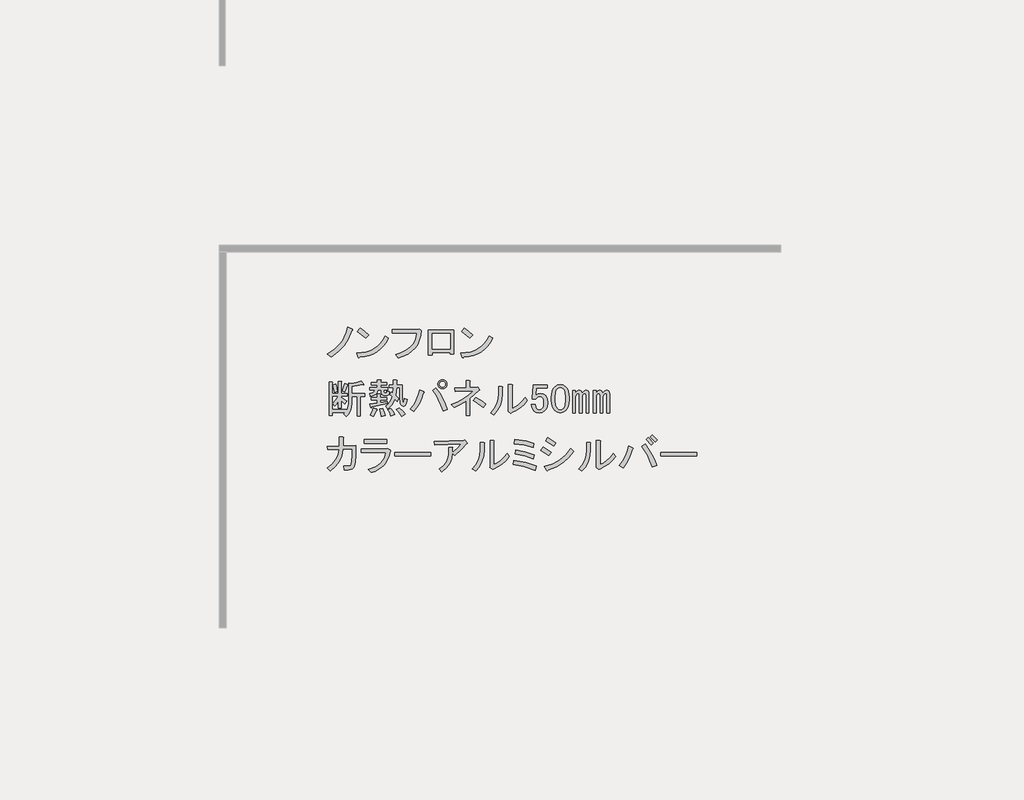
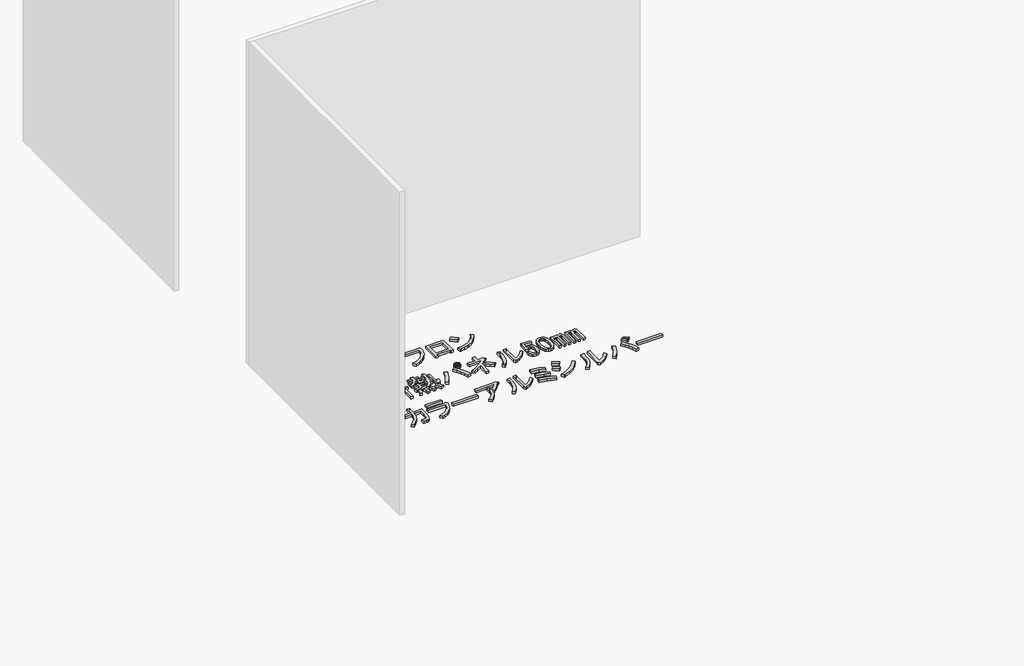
# One storey, part 85 of 117: 1 proxy.
"""IFC4 building model written with IfcOpenShell, lengths in millimetres."""

from ifc_helpers import new_model, si_unit, frame, origin, place, context, project, spatial, polyline, outline, extrude, element, save

model = new_model("IFC4")

# Units and contexts
model_context = context("Model", 3, world=origin())
ifc_project = project(units=[si_unit("LENGTHUNIT", "METRE", prefix="MILLI")], contexts=[model_context])

# Site, building, storey
site = spatial("IfcSite", under=ifc_project)
building = spatial("IfcBuilding", under=site)
storey = spatial("IfcBuildingStorey", under=building, Name="レベル 1", Elevation=500.0)

# Proxy
placement = place(None, origin())
element("IfcBuildingElementProxy", 1, Name="200㎜\u3000MS Pゴシック", ObjectType="200㎜\u3000MS Pゴシック", at=placement, inside=storey, context=model_context, shape_type="SweptSolid", body=[
    extrude(outline(polyline([(943.6706985, 7392.9503118), (918.0952502, 7333.1784775), (889.646156, 7287.2001434), (847.9782907, 7241.7965385), (798.8389462, 7204.439142), (771.2519457, 7226.2788507), (818.9544673, 7256.7394971), (858.6107805, 7295.2463519), (875.9963381, 7319.1694538), (891.3703435, 7347.2593423), (904.7327969, 7379.5160173), (916.0836981, 7415.9394788), (947.1190736, 7402.1459786), (950.2800841, 7397.5481452), (943.6706985, 7392.9503118)])), frame((0.0, 0.0, 500.0), z_axis=(0.0, 0.0, 1.0), x_axis=(1.0, 0.0, 0.0)), (0.0, 0.0, 1.0), 25.0),
    extrude(outline(polyline([(1043.3977052, 7337.7763109), (984.7753292, 7384.9041033), (1004.3161212, 7409.0427287), (1031.6157571, 7389.2145721), (1065.2374138, 7359.6160196), (1043.3977052, 7337.7763109)])), frame((0.0, 0.0, 500.0), z_axis=(0.0, 0.0, 1.0), x_axis=(1.0, 0.0, 0.0)), (0.0, 0.0, 1.0), 25.0),
    extrude(outline(polyline([(1205.4713328, 7337.7763109), (1188.947869, 7308.034076), (1169.8381239, 7282.0275808), (1148.1420975, 7259.7568252), (1123.8597898, 7241.2218093), (1096.9912008, 7226.422533), (1067.5363306, 7215.3589964), (1035.495179, 7208.0311994), (1000.8677461, 7204.439142), (995.1204544, 7196.3929336), (989.3731626, 7202.1402253), (980.1774958, 7232.0261425), (1016.0082679, 7234.7022252), (1048.7857912, 7241.0062859), (1078.5100658, 7250.9383244), (1105.1810916, 7264.4983409), (1128.7988687, 7281.6863354), (1149.363397, 7302.5023077), (1166.8746766, 7326.946258), (1181.3327074, 7355.0181862), (1205.4713328, 7337.7763109)])), frame((0.0, 0.0, 500.0), z_axis=(0.0, 0.0, 1.0), x_axis=(1.0, 0.0, 0.0)), (0.0, 0.0, 1.0), 25.0),
    extrude(outline(polyline([(1256.2314136, 7222.8304757), (1290.014713, 7232.5110702), (1319.5234641, 7244.8857078), (1344.757667, 7259.9543884), (1365.7173217, 7277.717112), (1382.402428, 7298.1738786), (1394.8129862, 7321.3246882), (1402.9489961, 7347.1695409), (1406.8104577, 7375.7084365), (1234.3917049, 7375.7084365), (1234.3917049, 7400.9965202), (1409.1093744, 7400.9965202), (1425.2017914, 7404.4448953), (1437.8458332, 7392.9503118), (1434.325617, 7356.4550091), (1426.0638851, 7323.4080815), (1413.0606375, 7293.8095289), (1395.3158742, 7267.6593514), (1372.8295952, 7244.957549), (1345.6018005, 7225.7041216), (1313.6324901, 7209.8990692), (1276.921664, 7197.5423919), (1256.2314136, 7222.8304757)])), frame((0.0, 0.0, 500.0), z_axis=(0.0, 0.0, 1.0), x_axis=(1.0, 0.0, 0.0)), (0.0, 0.0, 1.0), 25.0),
    extrude(outline(polyline([(1670.955987, 7223.979934), (1644.5184449, 7223.979934), (1644.5184449, 7236.6239759), (1516.9285679, 7236.6239759), (1516.9285679, 7218.2326423), (1490.4910258, 7218.2326423), (1490.4910258, 7397.5481452), (1670.955987, 7397.5481452), (1670.955987, 7223.979934)]), holes=[polyline([(1516.9285679, 7372.2600614), (1516.9285679, 7261.9120596), (1644.5184449, 7261.9120596), (1644.5184449, 7372.2600614), (1516.9285679, 7372.2600614)])]), frame((0.0, 0.0, 500.0), z_axis=(0.0, 0.0, 1.0), x_axis=(1.0, 0.0, 0.0)), (0.0, 0.0, 1.0), 25.0),
    extrude(outline(polyline([(1947.0099049, 7337.7763109), (1930.4864411, 7308.034076), (1911.376696, 7282.0275808), (1889.6806696, 7259.7568252), (1865.3983619, 7241.2218093), (1838.5297729, 7226.422533), (1809.0749026, 7215.3589964), (1777.0337511, 7208.0311994), (1742.4063182, 7204.439142), (1736.6590264, 7196.3929336), (1730.9117347, 7202.1402253), (1721.7160679, 7232.0261425), (1757.5468399, 7234.7022252), (1790.3243633, 7241.0062859), (1820.0486378, 7250.9383244), (1846.7196637, 7264.4983409), (1870.3374407, 7281.6863354), (1890.9019691, 7302.5023077), (1908.4132486, 7326.946258), (1922.8712795, 7355.0181862), (1947.0099049, 7337.7763109)])), frame((0.0, 0.0, 500.0), z_axis=(0.0, 0.0, 1.0), x_axis=(1.0, 0.0, 0.0)), (0.0, 0.0, 1.0), 25.0),
    extrude(outline(polyline([(1784.9362772, 7337.7763109), (1726.3139013, 7384.9041033), (1745.8546933, 7409.0427287), (1773.1543291, 7389.2145721), (1806.7759859, 7359.6160196), (1784.9362772, 7337.7763109)])), frame((0.0, 0.0, 500.0), z_axis=(0.0, 0.0, 1.0), x_axis=(1.0, 0.0, 0.0)), (0.0, 0.0, 1.0), 25.0),
    extrude(outline(polyline([(877.0021141, 6960.7654779), (894.2439894, 7013.6405621), (914.9342397, 7007.8932704), (916.6584273, 7004.7322599), (912.635323, 7002.1459786), (895.3934478, 6953.8687278), (877.0021141, 6960.7654779)])), frame((0.0, 0.0, 500.0), z_axis=(0.0, 0.0, 1.0), x_axis=(1.0, 0.0, 0.0)), (0.0, 0.0, 1.0), 25.0),
    extrude(outline(polyline([(1031.0295333, 7009.0427287), (1029.3053458, 7004.4448953), (1021.8338665, 7006.743812), (944.8201569, 6994.0997701), (944.8201569, 6944.673061), (1036.7768251, 6944.673061), (1036.7768251, 6922.8333523), (1005.7414495, 6922.8333523), (1005.7414495, 6782.5994334), (982.7522825, 6782.5994334), (982.7522825, 6922.8333523), (944.8201569, 6922.8333523), (944.8201569, 6873.4066432), (942.2338756, 6845.6041193), (934.4750317, 6820.8189236), (921.5436253, 6799.051056), (903.4396562, 6780.3005167), (886.1977809, 6799.8413086), (896.5429061, 6809.0369755), (806.8851546, 6809.0369755), (806.8851546, 6787.1972668), (783.8959876, 6787.1972668), (783.8959876, 7026.284604), (805.7356963, 7026.284604), (810.6208943, 7023.9856873), (806.8851546, 7019.3878539), (806.8851546, 6943.5236026), (849.4151137, 6943.5236026), (849.4151137, 7030.8824374), (867.8064473, 7030.8824374), (872.6916453, 7028.5835207), (868.9559057, 7023.9856873), (868.9559057, 6943.5236026), (912.635323, 6943.5236026), (912.635323, 6925.132269), (868.9559057, 6925.132269), (868.9559057, 6915.9366022), (909.186948, 6889.4990601), (895.3934478, 6867.6593514), (868.9559057, 6894.0968935), (868.9559057, 6841.2218093), (849.4151137, 6841.2218093), (849.4151137, 6889.4990601), (836.1963426, 6869.6709035), (821.8281132, 6853.8658512), (809.1840713, 6872.2571848), (831.02378, 6896.3958102), (848.2656553, 6925.132269), (806.8851546, 6925.132269), (806.8851546, 6830.8766841), (904.5891146, 6830.8766841), (904.5891146, 6817.0831839), (917.520521, 6841.2218093), (921.8309898, 6874.5561015), (921.8309898, 7019.3878539), (943.6706985, 7013.6405621), (979.8786366, 7021.1120414), (1010.339283, 7034.3308125), (1031.0295333, 7009.0427287)])), frame((0.0, 0.0, 500.0), z_axis=(0.0, 0.0, 1.0), x_axis=(1.0, 0.0, 0.0)), (0.0, 0.0, 1.0), 25.0),
    extrude(outline(polyline([(822.9775716, 6952.7192695), (810.3335297, 7003.2954369), (829.8743217, 7010.1921871), (837.6331656, 6986.0535617), (842.5183636, 6959.6160196), (822.9775716, 6952.7192695)])), frame((0.0, 0.0, 500.0), z_axis=(0.0, 0.0, 1.0), x_axis=(1.0, 0.0, 0.0)), (0.0, 0.0, 1.0), 25.0),
    extrude(outline(polyline([(1121.8367431, 6832.0261425), (1125.2851182, 6827.1409445), (1119.5378264, 6823.979934), (1109.7674304, 6798.4044857), (1098.8475761, 6779.1510583), (1075.858409, 6790.6456418), (1088.5024509, 6814.209538), (1098.8475761, 6841.2218093), (1121.8367431, 6832.0261425)])), frame((0.0, 0.0, 500.0), z_axis=(0.0, 0.0, 1.0), x_axis=(1.0, 0.0, 0.0)), (0.0, 0.0, 1.0), 25.0),
    extrude(outline(polyline([(1166.6656188, 6836.6239759), (1176.7233794, 6809.32434), (1181.6085774, 6787.1972668), (1152.8721186, 6781.449975), (1150.2858373, 6803.0023191), (1142.5269934, 6833.1756008), (1166.6656188, 6836.6239759)])), frame((0.0, 0.0, 500.0), z_axis=(0.0, 0.0, 1.0), x_axis=(1.0, 0.0, 0.0)), (0.0, 0.0, 1.0), 25.0),
    extrude(outline(polyline([(1281.611454, 6842.3712677), (1306.3248086, 6821.1062881), (1325.2908714, 6796.3929336), (1298.8533293, 6781.449975), (1279.5999019, 6811.0485276), (1260.9212037, 6830.8766841), (1281.611454, 6842.3712677)])), frame((0.0, 0.0, 500.0), z_axis=(0.0, 0.0, 1.0), x_axis=(1.0, 0.0, 0.0)), (0.0, 0.0, 1.0), 25.0),
    extrude(outline(polyline([(1222.9890781, 6783.7488917), (1214.655505, 6808.4622463), (1201.1493694, 6829.7272258), (1221.8396197, 6837.7734343), (1238.7941304, 6816.2210902), (1250.5760785, 6792.9445585), (1222.9890781, 6783.7488917)])), frame((0.0, 0.0, 500.0), z_axis=(0.0, 0.0, 1.0), x_axis=(1.0, 0.0, 0.0)), (0.0, 0.0, 1.0), 25.0),
    extrude(outline(polyline([(1083.9046175, 6846.9691011), (1081.8930654, 6842.0839031), (1078.1573257, 6843.520726), (1072.410034, 6867.6593514), (1127.5840349, 6875.7055599), (1127.5840349, 6898.6947269), (1083.9046175, 6898.6947269), (1083.9046175, 6917.0860605), (1127.5840349, 6917.0860605), (1127.5840349, 6940.0752276), (1145.9753685, 6940.0752276), (1150.8605665, 6937.7763109), (1147.1248268, 6933.1784775), (1147.1248268, 6917.0860605), (1191.9537026, 6917.0860605), (1191.9537026, 6898.6947269), (1147.1248268, 6898.6947269), (1147.1248268, 6879.1539349), (1197.7009943, 6888.3496017), (1197.7009943, 6872.2571848), (1083.9046175, 6846.9691011)])), frame((0.0, 0.0, 500.0), z_axis=(0.0, 0.0, 1.0), x_axis=(1.0, 0.0, 0.0)), (0.0, 0.0, 1.0), 25.0),
    extrude(outline(polyline([(1154.021577, 6968.8116864), (1128.7334932, 6968.8116864), (1124.1356598, 6951.3542877), (1113.7905346, 6938.0636755), (1097.6981177, 6928.9398498), (1075.858409, 6923.9828107), (1071.2605756, 6943.5236026), (1096.5486594, 6952.1445403), (1104.0201386, 6959.4723373), (1108.0432429, 6968.8116864), (1072.410034, 6968.8116864), (1072.410034, 6987.20302), (1126.4345765, 6987.20302), (1126.4345765, 7004.4448953), (1082.7551591, 7004.4448953), (1082.7551591, 7022.8362289), (1126.4345765, 7022.8362289), (1126.4345765, 7041.2275626), (1148.2742852, 7041.2275626), (1153.1594832, 7038.9286459), (1149.4237436, 7034.3308125), (1149.4237436, 7022.8362289), (1191.9537026, 7022.8362289), (1191.9537026, 7004.4448953), (1149.4237436, 7004.4448953), (1149.4237436, 6987.20302), (1202.2988277, 6987.20302), (1202.2988277, 6968.8116864), (1173.5623689, 6968.8116864), (1173.5623689, 6956.1676445), (1174.9991919, 6950.9950819), (1179.3096607, 6949.2708944), (1189.6547859, 6949.2708944), (1193.3905255, 6952.4319049), (1193.1031609, 6961.9149363), (1212.6439529, 6959.6160196), (1209.770307, 6938.0636755), (1204.4540622, 6932.6755894), (1196.551536, 6930.8795608), (1172.4129106, 6930.8795608), (1158.6194104, 6935.7647588), (1154.021577, 6950.4203528), (1154.021577, 6968.8116864)])), frame((0.0, 0.0, 500.0), z_axis=(0.0, 0.0, 1.0), x_axis=(1.0, 0.0, 0.0)), (0.0, 0.0, 1.0), 25.0),
    extrude(outline(polyline([(1285.0598291, 6986.0535617), (1263.2201204, 6986.0535617), (1258.622287, 6928.5806441), (1278.163079, 6910.1893104), (1267.8179538, 6888.3496017), (1251.7255369, 6904.4420187), (1232.4721095, 6866.7972576), (1202.2988277, 6834.3250592), (1185.0569525, 6855.0153095), (1200.1435933, 6866.9409399), (1213.2186821, 6882.0275808), (1224.2822187, 6900.2752321), (1233.3342033, 6921.683894), (1216.092328, 6936.6268525), (1224.1385364, 6953.8687278), (1237.9320367, 6943.5236026), (1240.2309534, 6986.0535617), (1212.6439529, 6986.0535617), (1212.6439529, 7004.4448953), (1240.2309534, 7004.4448953), (1240.2309534, 7038.9286459), (1262.0706621, 7038.9286459), (1266.95586, 7036.6297292), (1263.2201204, 7032.0318957), (1263.2201204, 7004.4448953), (1304.6006211, 7004.4448953), (1304.6006211, 6907.8903937), (1308.0489961, 6883.7517683), (1311.2818477, 6881.7402162), (1314.0836525, 6884.9012267), (1318.3941213, 6906.7409354), (1337.9349133, 6899.8441853), (1333.408921, 6873.0474374), (1325.578236, 6857.0268616), (1314.4428582, 6851.7824579), (1300.0027877, 6857.3142262), (1293.4652433, 6864.6420232), (1288.7955687, 6876.280289), (1285.0598291, 6912.4882271), (1285.0598291, 6986.0535617)])), frame((0.0, 0.0, 500.0), z_axis=(0.0, 0.0, 1.0), x_axis=(1.0, 0.0, 0.0)), (0.0, 0.0, 1.0), 25.0),
    extrude(outline(polyline([(1543.6879583, 6983.754645), (1570.3410238, 6947.0438188), (1592.8273029, 6909.3272167), (1611.1467953, 6870.6048384), (1625.2995013, 6830.8766841), (1594.2641258, 6820.531559), (1578.8182792, 6863.6362472), (1561.2171982, 6902.143102), (1541.4608827, 6936.0521234), (1519.5493329, 6965.3633113), (1543.6879583, 6983.754645)])), frame((0.0, 0.0, 500.0), z_axis=(0.0, 0.0, 1.0), x_axis=(1.0, 0.0, 0.0)), (0.0, 0.0, 1.0), 25.0),
    extrude(outline(polyline([(1456.3291235, 6957.3171029), (1460.3522278, 6951.8571757), (1454.0302068, 6946.9719777), (1442.1045764, 6911.5542922), (1427.0179356, 6877.717112), (1408.7702842, 6845.460437), (1387.3616224, 6814.7842672), (1360.9240803, 6832.0261425), (1384.1287708, 6863.4925649), (1403.1666748, 6896.9705394), (1418.0377922, 6932.460066), (1428.7421231, 6969.9611447), (1456.3291235, 6957.3171029)])), frame((0.0, 0.0, 500.0), z_axis=(0.0, 0.0, 1.0), x_axis=(1.0, 0.0, 0.0)), (0.0, 0.0, 1.0), 25.0),
    extrude(outline(polyline([(1589.6662924, 6978.0073532), (1577.0222505, 6980.3062699), (1566.6771253, 6987.20302), (1559.7803752, 6997.5481452), (1557.4814585, 7010.1921871), (1559.7803752, 7022.8362289), (1566.6771253, 7033.1813541), (1577.0222505, 7040.0781042), (1589.6662924, 7042.3770209), (1602.3103343, 7040.0781042), (1612.6554594, 7033.1813541), (1619.5522095, 7022.8362289), (1621.8511262, 7010.1921871), (1619.5522095, 6997.5481452), (1612.6554594, 6987.20302), (1602.3103343, 6980.3062699), (1589.6662924, 6978.0073532)]), holes=[polyline([(1589.6662924, 6989.5019367), (1597.9998654, 6990.9387597), (1604.609251, 6995.2492285), (1608.9197198, 7001.858614), (1610.3565427, 7010.1921871), (1608.9197198, 7018.5257601), (1604.609251, 7025.1351456), (1597.9998654, 7029.4456145), (1589.6662924, 7030.8824374), (1581.3327193, 7029.4456145), (1574.7233338, 7025.1351456), (1570.412865, 7018.5257601), (1568.976042, 7010.1921871), (1570.412865, 7001.858614), (1574.7233338, 6995.2492285), (1581.3327193, 6990.9387597), (1589.6662924, 6989.5019367)])]), frame((0.0, 0.0, 500.0), z_axis=(0.0, 0.0, 1.0), x_axis=(1.0, 0.0, 0.0)), (0.0, 0.0, 1.0), 25.0),
    extrude(outline(polyline([(1879.3297971, 6844.6701844), (1842.2597652, 6873.9813723), (1809.2128376, 6895.2463519), (1826.4547129, 6917.0860605), (1865.2489323, 6893.8095289), (1898.8705891, 6867.6593514), (1879.3297971, 6844.6701844)])), frame((0.0, 0.0, 500.0), z_axis=(0.0, 0.0, 1.0), x_axis=(1.0, 0.0, 0.0)), (0.0, 0.0, 1.0), 25.0),
    extrude(outline(polyline([(1833.351463, 6988.3524784), (1840.2482131, 6990.6513951), (1852.892255, 6973.4095198), (1854.0417134, 6967.3748634), (1848.2944216, 6965.3633113), (1785.0742122, 6909.0398521), (1785.0742122, 6788.3467251), (1758.6366701, 6788.3467251), (1758.6366701, 6890.6485184), (1718.4056278, 6866.5098931), (1673.5767521, 6844.6701844), (1654.0359601, 6865.3604347), (1699.5832473, 6884.8293855), (1740.8200657, 6907.6030291), (1777.7464152, 6933.6813655), (1810.362296, 6963.0643946), (1680.4735022, 6957.3171029), (1677.0251271, 6982.6051866), (1758.6366701, 6984.9041033), (1758.6366701, 7036.6297292), (1781.6258372, 7036.6297292), (1787.6604935, 7033.1813541), (1785.0742122, 7027.4340623), (1785.0742122, 6986.0535617), (1833.351463, 6988.3524784)])), frame((0.0, 0.0, 500.0), z_axis=(0.0, 0.0, 1.0), x_axis=(1.0, 0.0, 0.0)), (0.0, 0.0, 1.0), 25.0),
    extrude(outline(polyline([(1932.296838, 6806.7380587), (1957.4412394, 6835.9774056), (1975.4015262, 6868.5214452), (1986.1776982, 6904.3701775), (1989.7697556, 6943.5236026), (1989.7697556, 6995.2492285), (2013.908381, 6995.2492285), (2019.6556727, 6991.8008534), (2016.2072977, 6986.0535617), (2016.2072977, 6944.673061), (2012.3997169, 6898.9102504), (2000.9769745, 6858.17632), (1981.9390705, 6822.4712699), (1955.286005, 6791.7951002), (1932.296838, 6806.7380587)])), frame((0.0, 0.0, 500.0), z_axis=(0.0, 0.0, 1.0), x_axis=(1.0, 0.0, 0.0)), (0.0, 0.0, 1.0), 25.0),
    extrude(outline(polyline([(2086.3242571, 6837.7734343), (2111.1094529, 6849.9864292), (2134.8888725, 6867.0846222), (2157.6625161, 6889.0680132), (2179.4303837, 6915.9366022), (2195.5228006, 6894.0968935), (2172.246269, 6866.2943696), (2146.0960914, 6842.6586322), (2117.0722681, 6823.1896814), (2085.1747988, 6807.8875171), (2075.979132, 6803.2896837), (2057.5877983, 6817.0831839), (2059.886715, 6822.8304757), (2059.886715, 7007.8932704), (2084.0253404, 7007.8932704), (2089.7726322, 7004.4448953), (2086.3242571, 6998.6976035), (2086.3242571, 6837.7734343)])), frame((0.0, 0.0, 500.0), z_axis=(0.0, 0.0, 1.0), x_axis=(1.0, 0.0, 0.0)), (0.0, 0.0, 1.0), 25.0),
    extrude(outline(polyline([(2236.9033013, 7004.4448953), (2335.7567195, 7004.4448953), (2335.7567195, 6982.6051866), (2258.7430099, 6982.6051866), (2258.7430099, 6979.1568116), (2255.2946349, 6936.6268525), (2254.1451765, 6929.7301024), (2269.6628643, 6940.0752276), (2286.3300104, 6943.5236026), (2307.3076253, 6939.787863), (2324.262136, 6928.5806441), (2336.3314487, 6908.7524875), (2340.3545529, 6881.4528516), (2335.1819904, 6846.9691011), (2328.7162871, 6833.1756008), (2319.6643026, 6821.6810173), (2301.5603336, 6809.6117046), (2279.4332603, 6805.5886004), (2258.4556454, 6809.32434), (2241.5011347, 6820.531559), (2229.431822, 6839.2102572), (2223.109801, 6865.3604347), (2249.5473431, 6865.3604347), (2253.5704474, 6846.6817365), (2261.0419266, 6834.3250592), (2268.8007705, 6829.1524966), (2278.2838019, 6827.4283091), (2290.6404792, 6829.4398612), (2300.1235106, 6835.4745175), (2309.606542, 6852.4290282), (2312.7675525, 6878.0044766), (2310.1812712, 6902.143102), (2302.4224273, 6917.0860605), (2294.950948, 6922.2586231), (2286.3300104, 6923.9828107), (2273.3986039, 6921.3965294), (2262.191385, 6913.6376855), (2252.9957182, 6903.2925603), (2230.0065511, 6903.2925603), (2231.1560095, 6911.3387688), (2236.9033013, 6999.8470619), (2236.9033013, 7004.4448953)])), frame((0.0, 0.0, 500.0), z_axis=(0.0, 0.0, 1.0), x_axis=(1.0, 0.0, 0.0)), (0.0, 0.0, 1.0), 25.0),
    extrude(outline(polyline([(2365.6426367, 6918.2355189), (2367.0794596, 6941.7994151), (2371.3899284, 6961.9149363), (2378.5740431, 6978.5820824), (2388.6318037, 6991.8008534), (2406.7357728, 7003.8701661), (2428.862846, 7007.8932704), (2450.9899193, 7003.8701661), (2469.0938884, 6991.8008534), (2479.1516489, 6978.5820824), (2486.3357636, 6961.9149363), (2490.6462325, 6941.7994151), (2492.0830554, 6918.2355189), (2492.0830554, 6895.2463519), (2490.6462325, 6872.1853437), (2486.3357636, 6852.4290282), (2479.1516489, 6835.9774056), (2469.0938884, 6822.8304757), (2450.9899193, 6810.761163), (2428.862846, 6806.7380587), (2406.7357728, 6810.761163), (2388.6318037, 6822.8304757), (2378.5740431, 6835.9774056), (2371.3899284, 6852.4290282), (2367.0794596, 6872.1853437), (2365.6426367, 6895.2463519), (2365.6426367, 6918.2355189)]), holes=[polyline([(2428.862846, 6986.0535617), (2417.9429917, 6983.754645), (2408.1725957, 6976.8578948), (2401.6350513, 6967.7340692), (2396.9653768, 6955.3055507), (2393.2296371, 6920.5344356), (2393.2296371, 6894.0968935), (2397.2527414, 6859.9005075), (2402.2816217, 6847.3283068), (2409.3220541, 6837.7734343), (2418.8050855, 6830.8766841), (2428.862846, 6828.5777674), (2439.7827004, 6830.8766841), (2449.5530964, 6837.7734343), (2456.0906408, 6846.8972599), (2460.7603153, 6859.3257784), (2464.496055, 6894.0968935), (2464.496055, 6920.5344356), (2460.7603153, 6955.3055507), (2456.0906408, 6967.7340692), (2449.5530964, 6976.8578948), (2439.7827004, 6983.754645), (2428.862846, 6986.0535617)])]), frame((0.0, 0.0, 500.0), z_axis=(0.0, 0.0, 1.0), x_axis=(1.0, 0.0, 0.0)), (0.0, 0.0, 1.0), 25.0),
    extrude(outline(polyline([(2536.9119311, 6806.7380587), (2517.3711392, 6806.7380587), (2517.3711392, 6964.213853), (2536.9119311, 6964.213853), (2536.9119311, 6946.9719777), (2548.9812438, 6962.4896654), (2562.2000149, 6967.662228), (2571.3956817, 6966.2254051), (2578.2924318, 6961.9149363), (2585.1891819, 6948.121436), (2598.1205884, 6962.77703), (2611.626724, 6967.662228), (2619.9602971, 6966.2254051), (2626.5696826, 6961.9149363), (2631.7422452, 6953.2939986), (2633.4664327, 6941.2246859), (2633.4664327, 6806.7380587), (2613.9256407, 6806.7380587), (2613.9256407, 6930.8795608), (2611.3393594, 6940.3625922), (2603.5805156, 6943.5236026), (2593.2353904, 6938.9257692), (2587.200734, 6930.3048316), (2585.1891819, 6920.5344356), (2585.1891819, 6806.7380587), (2565.6483899, 6806.7380587), (2565.6483899, 6930.8795608), (2563.0621086, 6940.3625922), (2555.3032648, 6943.5236026), (2544.9581396, 6938.9257692), (2538.9234833, 6930.3048316), (2536.9119311, 6920.5344356), (2536.9119311, 6806.7380587)])), frame((0.0, 0.0, 500.0), z_axis=(0.0, 0.0, 1.0), x_axis=(1.0, 0.0, 0.0)), (0.0, 0.0, 1.0), 25.0),
    extrude(outline(polyline([(2758.7573931, 6967.662228), (2767.0909661, 6966.2254051), (2773.7003517, 6961.9149363), (2778.8729142, 6953.2939986), (2780.5971018, 6941.2246859), (2780.5971018, 6806.7380587), (2761.0563098, 6806.7380587), (2761.0563098, 6930.8795608), (2758.4700285, 6940.3625922), (2750.7111846, 6943.5236026), (2740.3660594, 6938.9257692), (2734.3314031, 6930.3048316), (2732.319851, 6920.5344356), (2732.319851, 6806.7380587), (2712.779059, 6806.7380587), (2712.779059, 6930.8795608), (2710.1927777, 6940.3625922), (2702.4339338, 6943.5236026), (2692.0888087, 6938.9257692), (2686.0541523, 6930.3048316), (2684.0426002, 6920.5344356), (2684.0426002, 6806.7380587), (2664.5018082, 6806.7380587), (2664.5018082, 6964.213853), (2684.0426002, 6964.213853), (2684.0426002, 6946.9719777), (2696.1119129, 6962.4896654), (2709.3306839, 6967.662228), (2718.5263508, 6966.2254051), (2725.4231009, 6961.9149363), (2732.319851, 6948.121436), (2745.2512574, 6962.77703), (2758.7573931, 6967.662228)])), frame((0.0, 0.0, 500.0), z_axis=(0.0, 0.0, 1.0), x_axis=(1.0, 0.0, 0.0)), (0.0, 0.0, 1.0), 25.0),
    extrude(outline(polyline([(947.1190736, 6549.2708944), (881.5999475, 6546.9719777), (873.3382156, 6500.706279), (855.44977, 6459.6131429), (827.9346107, 6423.6925694), (790.7927377, 6392.9445585), (771.2519457, 6412.4853505), (806.2385843, 6440.7189213), (831.8858738, 6472.5445494), (848.1938142, 6507.9622349), (855.1624054, 6546.9719777), (773.5508624, 6544.673061), (771.2519457, 6567.662228), (856.3118638, 6569.9611447), (856.3118638, 6634.3308125), (880.4504892, 6634.3308125), (887.3472393, 6630.8824374), (882.7494059, 6625.1351456), (882.7494059, 6569.9611447), (973.5566157, 6573.4095198), (973.5566157, 6502.143102), (970.9703344, 6454.1532158), (963.2114905, 6422.8304757), (956.602105, 6412.7727151), (947.1190736, 6405.5886004), (934.7623963, 6401.2781316), (919.5320731, 6399.8413086), (891.9450727, 6399.8413086), (888.4966976, 6428.5777674), (918.3826148, 6426.2788507), (932.4634796, 6429.1524966), (940.2223235, 6437.7734343), (945.3948861, 6463.061518), (947.1190736, 6502.143102), (947.1190736, 6549.2708944)])), frame((0.0, 0.0, 500.0), z_axis=(0.0, 0.0, 1.0), x_axis=(1.0, 0.0, 0.0)), (0.0, 0.0, 1.0), 25.0),
    extrude(outline(polyline([(1061.9729521, 6403.2896837), (1111.6151847, 6421.6091762), (1131.8564279, 6433.7323697), (1149.0444223, 6447.8311948), (1163.179168, 6463.9056515), (1174.2606649, 6481.9557397), (1182.2889131, 6501.9814594), (1187.2639125, 6523.9828107), (1012.546243, 6523.9828107), (1012.546243, 6549.2708944), (1188.4133709, 6549.2708944), (1198.758496, 6552.7192695), (1219.4487464, 6540.0752276), (1222.3223922, 6534.6153004), (1217.1498297, 6529.7301024), (1211.0253719, 6502.2508637), (1201.8476653, 6477.2860651), (1189.6167101, 6454.8357067), (1174.332506, 6434.8997884), (1155.9950533, 6417.4783102), (1134.6043517, 6402.5712722), (1110.1604015, 6390.1786744), (1082.6632025, 6380.3005167), (1061.9729521, 6403.2896837)])), frame((0.0, 0.0, 500.0), z_axis=(0.0, 0.0, 1.0), x_axis=(1.0, 0.0, 0.0)), (0.0, 0.0, 1.0), 25.0),
    extrude(outline(polyline([(1191.8617459, 6589.5019367), (1033.2364933, 6589.5019367), (1033.2364933, 6614.7900205), (1191.8617459, 6614.7900205), (1191.8617459, 6589.5019367)])), frame((0.0, 0.0, 500.0), z_axis=(0.0, 0.0, 1.0), x_axis=(1.0, 0.0, 0.0)), (0.0, 0.0, 1.0), 25.0),
    extrude(outline(polyline([(1250.8979269, 6498.6947269), (1250.8979269, 6523.9828107), (1507.2271394, 6523.9828107), (1507.2271394, 6498.6947269), (1250.8979269, 6498.6947269)])), frame((0.0, 0.0, 500.0), z_axis=(0.0, 0.0, 1.0), x_axis=(1.0, 0.0, 0.0)), (0.0, 0.0, 1.0), 25.0),
    extrude(outline(polyline([(1659.8292302, 6521.683894), (1656.0216494, 6480.4470756), (1642.2999903, 6444.0954552), (1618.664253, 6412.6290328), (1585.1144373, 6386.0478084), (1565.5736453, 6407.8875171), (1595.244039, 6428.1467206), (1616.4371774, 6452.1416637), (1629.1530604, 6479.8723464), (1633.3916881, 6511.3387688), (1633.3916881, 6560.7654779), (1657.5303135, 6560.7654779), (1663.2776052, 6558.1791966), (1659.8292302, 6552.7192695), (1659.8292302, 6522.8333523), (1696.3245329, 6553.5813632), (1723.0494396, 6583.754645), (1535.6877282, 6576.8578948), (1533.3888115, 6603.2954369), (1742.5902315, 6609.0427287), (1750.63644, 6611.3416454), (1767.8783153, 6590.6513951), (1768.1656799, 6587.4903846), (1762.1310235, 6587.20302), (1724.1988979, 6543.8109672), (1679.3700222, 6503.2925603), (1659.8292302, 6521.683894)])), frame((0.0, 0.0, 500.0), z_axis=(0.0, 0.0, 1.0), x_axis=(1.0, 0.0, 0.0)), (0.0, 0.0, 1.0), 25.0),
    extrude(outline(polyline([(1802.8218492, 6406.7380587), (1827.9662506, 6435.9774056), (1845.9265374, 6468.5214452), (1856.7027094, 6504.3701775), (1860.2947668, 6543.5236026), (1860.2947668, 6595.2492285), (1884.4333922, 6595.2492285), (1890.1806839, 6591.8008534), (1886.7323089, 6586.0535617), (1886.7323089, 6544.673061), (1882.9247281, 6498.9102504), (1871.5019857, 6458.17632), (1852.4640818, 6422.4712699), (1825.8110162, 6391.7951002), (1802.8218492, 6406.7380587)])), frame((0.0, 0.0, 500.0), z_axis=(0.0, 0.0, 1.0), x_axis=(1.0, 0.0, 0.0)), (0.0, 0.0, 1.0), 25.0),
    extrude(outline(polyline([(1956.8492684, 6437.7734343), (1981.6344641, 6449.9864292), (2005.4138837, 6467.0846222), (2028.1875273, 6489.0680132), (2049.9553949, 6515.9366022), (2066.0478118, 6494.0968935), (2042.7712802, 6466.2943696), (2016.6211027, 6442.6586322), (1987.5972793, 6423.1896814), (1955.69981, 6407.8875171), (1946.5041432, 6403.2896837), (1928.1128096, 6417.0831839), (1930.4117263, 6422.8304757), (1930.4117263, 6607.8932704), (1954.5503517, 6607.8932704), (1960.2976434, 6604.4448953), (1956.8492684, 6598.6976035), (1956.8492684, 6437.7734343)])), frame((0.0, 0.0, 500.0), z_axis=(0.0, 0.0, 1.0), x_axis=(1.0, 0.0, 0.0)), (0.0, 0.0, 1.0), 25.0),
    extrude(outline(polyline([(2237.3171063, 6479.1539349), (2180.7062824, 6497.8326331), (2107.4283125, 6512.4882271), (2110.8766875, 6540.0752276), (2180.1315532, 6528.0059149), (2245.3633147, 6507.8903937), (2237.3171063, 6479.1539349)])), frame((0.0, 0.0, 500.0), z_axis=(0.0, 0.0, 1.0), x_axis=(1.0, 0.0, 0.0)), (0.0, 0.0, 1.0), 25.0),
    extrude(outline(polyline([(2251.1106065, 6395.2434752), (2167.4875114, 6422.5431111), (2093.6348123, 6437.7734343), (2099.382104, 6467.6593514), (2184.1546575, 6450.9922053), (2259.1568149, 6426.2788507), (2251.1106065, 6395.2434752)])), frame((0.0, 0.0, 500.0), z_axis=(0.0, 0.0, 1.0), x_axis=(1.0, 0.0, 0.0)), (0.0, 0.0, 1.0), 25.0),
    extrude(outline(polyline([(2106.2788541, 6615.9394788), (2187.3156679, 6604.1575307), (2241.9149397, 6589.5019367), (2235.0181896, 6559.6160196), (2173.2348031, 6576.5705303), (2102.8304791, 6586.0535617), (2106.2788541, 6615.9394788)])), frame((0.0, 0.0, 500.0), z_axis=(0.0, 0.0, 1.0), x_axis=(1.0, 0.0, 0.0)), (0.0, 0.0, 1.0), 25.0),
    extrude(outline(polyline([(2314.9285342, 6422.8304757), (2373.6945924, 6441.2936505), (2424.7018068, 6469.0961743), (2467.9501773, 6506.2380473), (2503.4397039, 6552.7192695), (2524.1299543, 6532.0290191), (2490.7956621, 6488.3496017), (2449.4151614, 6451.5669345), (2399.9884522, 6421.6810173), (2342.5155346, 6398.6918503), (2337.9177012, 6391.5077356), (2331.0209511, 6397.5423919), (2314.9285342, 6422.8304757)])), frame((0.0, 0.0, 500.0), z_axis=(0.0, 0.0, 1.0), x_axis=(1.0, 0.0, 0.0)), (0.0, 0.0, 1.0), 25.0),
    extrude(outline(polyline([(2306.8823257, 6561.9149363), (2365.5047017, 6525.132269), (2347.113368, 6500.9936436), (2289.6404504, 6537.7763109), (2306.8823257, 6561.9149363)])), frame((0.0, 0.0, 500.0), z_axis=(0.0, 0.0, 1.0), x_axis=(1.0, 0.0, 0.0)), (0.0, 0.0, 1.0), 25.0),
    extrude(outline(polyline([(2339.0671596, 6629.732979), (2397.6895355, 6592.9503118), (2381.5971186, 6568.8116864), (2324.124201, 6605.5943537), (2339.0671596, 6629.732979)])), frame((0.0, 0.0, 500.0), z_axis=(0.0, 0.0, 1.0), x_axis=(1.0, 0.0, 0.0)), (0.0, 0.0, 1.0), 25.0),
    extrude(outline(polyline([(2713.1009073, 6437.7734343), (2737.8861031, 6449.9864292), (2761.6655227, 6467.0846222), (2784.4391663, 6489.0680132), (2806.2070339, 6515.9366022), (2822.2994508, 6494.0968935), (2799.0229192, 6466.2943696), (2772.8727416, 6442.6586322), (2743.8489183, 6423.1896814), (2711.951449, 6407.8875171), (2702.7557822, 6403.2896837), (2684.3644485, 6417.0831839), (2686.6633652, 6422.8304757), (2686.6633652, 6607.8932704), (2710.8019906, 6607.8932704), (2716.5492824, 6604.4448953), (2713.1009073, 6598.6976035), (2713.1009073, 6437.7734343)])), frame((0.0, 0.0, 500.0), z_axis=(0.0, 0.0, 1.0), x_axis=(1.0, 0.0, 0.0)), (0.0, 0.0, 1.0), 25.0),
    extrude(outline(polyline([(2559.0734882, 6406.7380587), (2584.2178896, 6435.9774056), (2602.1781764, 6468.5214452), (2612.9543484, 6504.3701775), (2616.5464058, 6543.5236026), (2616.5464058, 6595.2492285), (2640.6850312, 6595.2492285), (2646.4323229, 6591.8008534), (2642.9839479, 6586.0535617), (2642.9839479, 6544.673061), (2639.1763671, 6498.9102504), (2627.7536247, 6458.17632), (2608.7157207, 6422.4712699), (2582.0626552, 6391.7951002), (2559.0734882, 6406.7380587)])), frame((0.0, 0.0, 500.0), z_axis=(0.0, 0.0, 1.0), x_axis=(1.0, 0.0, 0.0)), (0.0, 0.0, 1.0), 25.0),
    extrude(outline(polyline([(3055.6394962, 6629.732979), (3092.4221635, 6590.6513951), (3075.1802882, 6578.0073532), (3039.5470793, 6617.0889372), (3055.6394962, 6629.732979)])), frame((0.0, 0.0, 500.0), z_axis=(0.0, 0.0, 1.0), x_axis=(1.0, 0.0, 0.0)), (0.0, 0.0, 1.0), 25.0),
    extrude(outline(polyline([(3032.6503292, 6583.754645), (3059.3033947, 6547.0438188), (3081.7896738, 6509.3272167), (3100.1091662, 6470.6048384), (3114.2618722, 6430.8766841), (3083.2264967, 6420.531559), (3067.7806501, 6463.6362472), (3050.1795691, 6502.143102), (3030.4232536, 6536.0521234), (3008.5117038, 6565.3633113), (3032.6503292, 6583.754645)])), frame((0.0, 0.0, 500.0), z_axis=(0.0, 0.0, 1.0), x_axis=(1.0, 0.0, 0.0)), (0.0, 0.0, 1.0), 25.0),
    extrude(outline(polyline([(2945.2914944, 6557.3171029), (2949.3145987, 6551.8571757), (2942.9925777, 6546.9719777), (2931.0669473, 6511.5542922), (2915.9803065, 6477.717112), (2897.7326551, 6445.460437), (2876.3239933, 6414.7842672), (2849.8864512, 6432.0261425), (2873.0911417, 6463.4925649), (2892.1290457, 6496.9705394), (2907.0001631, 6532.460066), (2917.704494, 6569.9611447), (2945.2914944, 6557.3171029)])), frame((0.0, 0.0, 500.0), z_axis=(0.0, 0.0, 1.0), x_axis=(1.0, 0.0, 0.0)), (0.0, 0.0, 1.0), 25.0),
    extrude(outline(polyline([(3083.2264967, 6646.9748543), (3120.009164, 6611.3416454), (3105.0662054, 6597.5481452), (3068.2835381, 6634.3308125), (3083.2264967, 6646.9748543)])), frame((0.0, 0.0, 500.0), z_axis=(0.0, 0.0, 1.0), x_axis=(1.0, 0.0, 0.0)), (0.0, 0.0, 1.0), 25.0),
    extrude(outline(polyline([(3142.998331, 6498.6947269), (3142.998331, 6523.9828107), (3399.3275435, 6523.9828107), (3399.3275435, 6498.6947269), (3142.998331, 6498.6947269)])), frame((0.0, 0.0, 500.0), z_axis=(0.0, 0.0, 1.0), x_axis=(1.0, 0.0, 0.0)), (0.0, 0.0, 1.0), 25.0),
])

save(model, "model.ifc")
